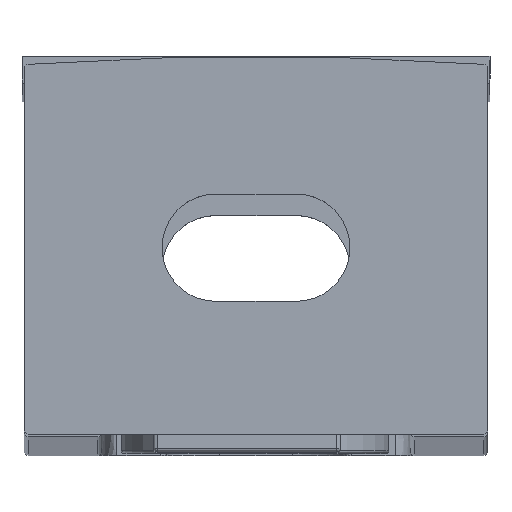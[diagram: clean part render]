
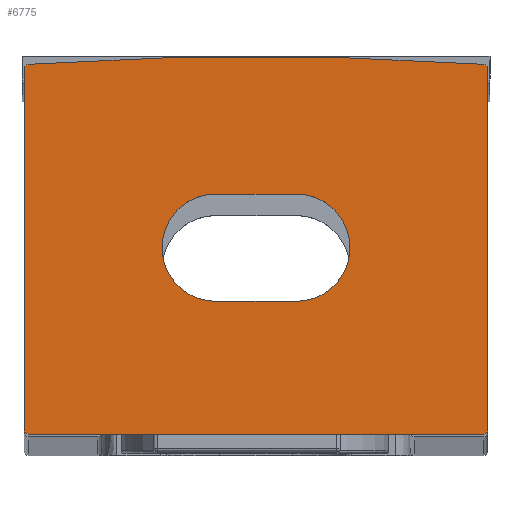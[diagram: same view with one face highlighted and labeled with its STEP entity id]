
A CAD part, top view. The second image highlights one B-rep face of the part: STEP entity #6775.
In plain terms, the highlighted planar face has unit normal (0, 0, 1).
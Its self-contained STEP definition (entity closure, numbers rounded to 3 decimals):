
#89 = EDGE_LOOP ( 'NONE', ( #662, #13224, #6256, #3251, #13471, #14063, #8549, #3293, #7747, #5956 ) ) ;
#123 = EDGE_CURVE ( 'NONE', #5669, #13006, #14342, .T. ) ;
#279 = ORIENTED_EDGE ( 'NONE', *, *, #2030, .F. ) ;
#465 = AXIS2_PLACEMENT_3D ( 'NONE', #1720, #14292, #4037 ) ;
#491 = DIRECTION ( 'NONE',  ( 0., 0., 1. ) ) ;
#630 = VERTEX_POINT ( 'NONE', #1347 ) ;
#662 = ORIENTED_EDGE ( 'NONE', *, *, #10671, .T. ) ;
#666 = AXIS2_PLACEMENT_3D ( 'NONE', #2434, #11409, #13833 ) ;
#738 = CIRCLE ( 'NONE', #4980, 0.186 ) ;
#880 = CARTESIAN_POINT ( 'NONE',  ( -42.758, 0.284, 201.7 ) ) ;
#904 = CARTESIAN_POINT ( 'NONE',  ( -42.804, -13.498, 201.7 ) ) ;
#985 = ORIENTED_EDGE ( 'NONE', *, *, #6416, .F. ) ;
#1210 = DIRECTION ( 'NONE',  ( 0., -1., 0. ) ) ;
#1347 = CARTESIAN_POINT ( 'NONE',  ( -30.816, -6.551, 201.7 ) ) ;
#1389 = CARTESIAN_POINT ( 'NONE',  ( -32.816, -8.551, 201.7 ) ) ;
#1555 = LINE ( 'NONE', #4838, #13726 ) ;
#1720 = CARTESIAN_POINT ( 'NONE',  ( -32.816, -6.551, 201.7 ) ) ;
#1761 = CARTESIAN_POINT ( 'NONE',  ( -25.827, -13.498, 201.7 ) ) ;
#1779 = DIRECTION ( 'NONE',  ( 1., 0., 0. ) ) ;
#1924 = CARTESIAN_POINT ( 'NONE',  ( -42.958, -13.38, 201.7 ) ) ;
#2030 = EDGE_CURVE ( 'NONE', #4894, #4992, #9256, .T. ) ;
#2079 = CARTESIAN_POINT ( 'NONE',  ( -42.958, -0.926, 201.7 ) ) ;
#2434 = CARTESIAN_POINT ( 'NONE',  ( -25.874, 0.084, 201.7 ) ) ;
#2443 = DIRECTION ( 'NONE',  ( 1., 0., 0. ) ) ;
#2637 = CARTESIAN_POINT ( 'NONE',  ( -25.674, 0.084, 201.7 ) ) ;
#2698 = ORIENTED_EDGE ( 'NONE', *, *, #13536, .F. ) ;
#3090 = DIRECTION ( 'NONE',  ( 1., 0., 0. ) ) ;
#3251 = ORIENTED_EDGE ( 'NONE', *, *, #8127, .T. ) ;
#3293 = ORIENTED_EDGE ( 'NONE', *, *, #6085, .T. ) ;
#3445 = CIRCLE ( 'NONE', #10722, 2. ) ;
#3520 = ORIENTED_EDGE ( 'NONE', *, *, #12547, .F. ) ;
#3660 = EDGE_CURVE ( 'NONE', #7871, #7836, #13013, .T. ) ;
#3742 = CARTESIAN_POINT ( 'NONE',  ( -25.848, -13.314, 201.7 ) ) ;
#3755 = CARTESIAN_POINT ( 'NONE',  ( -25.674, -13.38, 201.7 ) ) ;
#3950 = VERTEX_POINT ( 'NONE', #1389 ) ;
#4037 = DIRECTION ( 'NONE',  ( 1., 0., 0. ) ) ;
#4217 = DIRECTION ( 'NONE',  ( 0., 0., 1. ) ) ;
#4636 = ORIENTED_EDGE ( 'NONE', *, *, #10922, .F. ) ;
#4825 = VERTEX_POINT ( 'NONE', #6165 ) ;
#4838 = CARTESIAN_POINT ( 'NONE',  ( -35.816, -8.551, 201.7 ) ) ;
#4870 = CIRCLE ( 'NONE', #13276, 118.923 ) ;
#4894 = VERTEX_POINT ( 'NONE', #5293 ) ;
#4895 = DIRECTION ( 'NONE',  ( -1., 0., 0. ) ) ;
#4980 = AXIS2_PLACEMENT_3D ( 'NONE', #8711, #13103, #1779 ) ;
#4992 = VERTEX_POINT ( 'NONE', #10502 ) ;
#5203 = VERTEX_POINT ( 'NONE', #6650 ) ;
#5209 = VECTOR ( 'NONE', #1210, 1000. ) ;
#5215 = DIRECTION ( 'NONE',  ( 0., 0., 1. ) ) ;
#5293 = CARTESIAN_POINT ( 'NONE',  ( -32.816, -4.551, 201.7 ) ) ;
#5354 = DIRECTION ( 'NONE',  ( 1., 0., 0. ) ) ;
#5455 = DIRECTION ( 'NONE',  ( 0., 0., 1. ) ) ;
#5669 = VERTEX_POINT ( 'NONE', #8734 ) ;
#5786 = EDGE_CURVE ( 'NONE', #9089, #6317, #11066, .T. ) ;
#5820 = EDGE_CURVE ( 'NONE', #5927, #5669, #12017, .T. ) ;
#5927 = VERTEX_POINT ( 'NONE', #12604 ) ;
#5948 = CARTESIAN_POINT ( 'NONE',  ( -35.816, -4.551, 201.7 ) ) ;
#5956 = ORIENTED_EDGE ( 'NONE', *, *, #123, .T. ) ;
#6018 = DIRECTION ( 'NONE',  ( -1., 0., 0. ) ) ;
#6085 = EDGE_CURVE ( 'NONE', #8784, #5927, #738, .T. ) ;
#6165 = CARTESIAN_POINT ( 'NONE',  ( -35.816, -8.551, 201.7 ) ) ;
#6256 = ORIENTED_EDGE ( 'NONE', *, *, #7199, .T. ) ;
#6317 = VERTEX_POINT ( 'NONE', #11621 ) ;
#6416 = EDGE_CURVE ( 'NONE', #4992, #4825, #10146, .T. ) ;
#6650 = CARTESIAN_POINT ( 'NONE',  ( -25.874, 0.284, 201.7 ) ) ;
#6775 = ADVANCED_FACE ( 'NONE', ( #7441, #8651 ), #7297, .T. ) ;
#6819 = CIRCLE ( 'NONE', #465, 2. ) ;
#6839 = AXIS2_PLACEMENT_3D ( 'NONE', #3742, #7233, #11733 ) ;
#7041 = DIRECTION ( 'NONE',  ( -1., 0., 0. ) ) ;
#7199 = EDGE_CURVE ( 'NONE', #6317, #12901, #13815, .T. ) ;
#7233 = DIRECTION ( 'NONE',  ( 0., 0., 1. ) ) ;
#7297 = PLANE ( 'NONE',  #13178 ) ;
#7430 = VECTOR ( 'NONE', #10891, 1000. ) ;
#7441 = FACE_BOUND ( 'NONE', #8340, .T. ) ;
#7459 = LINE ( 'NONE', #9926, #11508 ) ;
#7740 = AXIS2_PLACEMENT_3D ( 'NONE', #14262, #4217, #3090 ) ;
#7747 = ORIENTED_EDGE ( 'NONE', *, *, #5820, .T. ) ;
#7778 = CARTESIAN_POINT ( 'NONE',  ( -32.816, -6.551, 201.7 ) ) ;
#7836 = VERTEX_POINT ( 'NONE', #10966 ) ;
#7871 = VERTEX_POINT ( 'NONE', #880 ) ;
#8127 = EDGE_CURVE ( 'NONE', #12901, #5203, #13857, .T. ) ;
#8233 = DIRECTION ( 'NONE',  ( 0., 1., 0. ) ) ;
#8340 = EDGE_LOOP ( 'NONE', ( #985, #279, #2698, #4636, #3520 ) ) ;
#8549 = ORIENTED_EDGE ( 'NONE', *, *, #11002, .T. ) ;
#8651 = FACE_OUTER_BOUND ( 'NONE', #89, .T. ) ;
#8711 = CARTESIAN_POINT ( 'NONE',  ( -42.784, -13.314, 201.7 ) ) ;
#8734 = CARTESIAN_POINT ( 'NONE',  ( -40.224, -13.499, 201.7 ) ) ;
#8752 = CARTESIAN_POINT ( 'NONE',  ( -28.408, -13.499, 201.7 ) ) ;
#8784 = VERTEX_POINT ( 'NONE', #1924 ) ;
#8828 = DIRECTION ( 'NONE',  ( 1., 0., 0. ) ) ;
#9089 = VERTEX_POINT ( 'NONE', #1761 ) ;
#9256 = LINE ( 'NONE', #5948, #13214 ) ;
#9918 = VECTOR ( 'NONE', #14227, 1000. ) ;
#9926 = CARTESIAN_POINT ( 'NONE',  ( -25.827, -13.498, 201.7 ) ) ;
#10146 = CIRCLE ( 'NONE', #7740, 2. ) ;
#10502 = CARTESIAN_POINT ( 'NONE',  ( -35.816, -4.551, 201.7 ) ) ;
#10585 = CARTESIAN_POINT ( 'NONE',  ( -34.316, -118.339, 201.7 ) ) ;
#10671 = EDGE_CURVE ( 'NONE', #13006, #9089, #7459, .T. ) ;
#10722 = AXIS2_PLACEMENT_3D ( 'NONE', #7778, #5455, #8828 ) ;
#10891 = DIRECTION ( 'NONE',  ( 1., 0., 0. ) ) ;
#10922 = EDGE_CURVE ( 'NONE', #3950, #630, #6819, .T. ) ;
#10966 = CARTESIAN_POINT ( 'NONE',  ( -42.958, 0.084, 201.7 ) ) ;
#11002 = EDGE_CURVE ( 'NONE', #7836, #8784, #12151, .T. ) ;
#11008 = VECTOR ( 'NONE', #8233, 1000. ) ;
#11066 = CIRCLE ( 'NONE', #6839, 0.186 ) ;
#11331 = CARTESIAN_POINT ( 'NONE',  ( -42.758, 0.084, 201.7 ) ) ;
#11409 = DIRECTION ( 'NONE',  ( 0., 0., 1. ) ) ;
#11508 = VECTOR ( 'NONE', #5354, 1000. ) ;
#11621 = CARTESIAN_POINT ( 'NONE',  ( -25.674, -13.38, 201.7 ) ) ;
#11733 = DIRECTION ( 'NONE',  ( 1., 0., 0. ) ) ;
#11864 = DIRECTION ( 'NONE',  ( 0., -1., 0. ) ) ;
#12017 = LINE ( 'NONE', #904, #9918 ) ;
#12151 = LINE ( 'NONE', #2079, #5209 ) ;
#12547 = EDGE_CURVE ( 'NONE', #4825, #3950, #1555, .T. ) ;
#12604 = CARTESIAN_POINT ( 'NONE',  ( -42.804, -13.498, 201.7 ) ) ;
#12732 = DIRECTION ( 'NONE',  ( 0., 0., 1. ) ) ;
#12901 = VERTEX_POINT ( 'NONE', #2637 ) ;
#13006 = VERTEX_POINT ( 'NONE', #13211 ) ;
#13013 = CIRCLE ( 'NONE', #14184, 0.2 ) ;
#13103 = DIRECTION ( 'NONE',  ( 0., 0., 1. ) ) ;
#13178 = AXIS2_PLACEMENT_3D ( 'NONE', #14217, #5215, #11864 ) ;
#13211 = CARTESIAN_POINT ( 'NONE',  ( -28.408, -13.499, 201.7 ) ) ;
#13214 = VECTOR ( 'NONE', #7041, 1000. ) ;
#13224 = ORIENTED_EDGE ( 'NONE', *, *, #5786, .T. ) ;
#13254 = EDGE_CURVE ( 'NONE', #5203, #7871, #4870, .T. ) ;
#13276 = AXIS2_PLACEMENT_3D ( 'NONE', #10585, #491, #6018 ) ;
#13471 = ORIENTED_EDGE ( 'NONE', *, *, #13254, .T. ) ;
#13536 = EDGE_CURVE ( 'NONE', #630, #4894, #3445, .T. ) ;
#13726 = VECTOR ( 'NONE', #2443, 1000. ) ;
#13815 = LINE ( 'NONE', #3755, #11008 ) ;
#13833 = DIRECTION ( 'NONE',  ( 1., 0., 0. ) ) ;
#13857 = CIRCLE ( 'NONE', #666, 0.2 ) ;
#14063 = ORIENTED_EDGE ( 'NONE', *, *, #3660, .T. ) ;
#14184 = AXIS2_PLACEMENT_3D ( 'NONE', #11331, #12732, #4895 ) ;
#14217 = CARTESIAN_POINT ( 'NONE',  ( -42.784, -13.314, 201.7 ) ) ;
#14227 = DIRECTION ( 'NONE',  ( 1., 0., 0. ) ) ;
#14262 = CARTESIAN_POINT ( 'NONE',  ( -35.816, -6.551, 201.7 ) ) ;
#14292 = DIRECTION ( 'NONE',  ( 0., 0., 1. ) ) ;
#14342 = LINE ( 'NONE', #8752, #7430 ) ;
